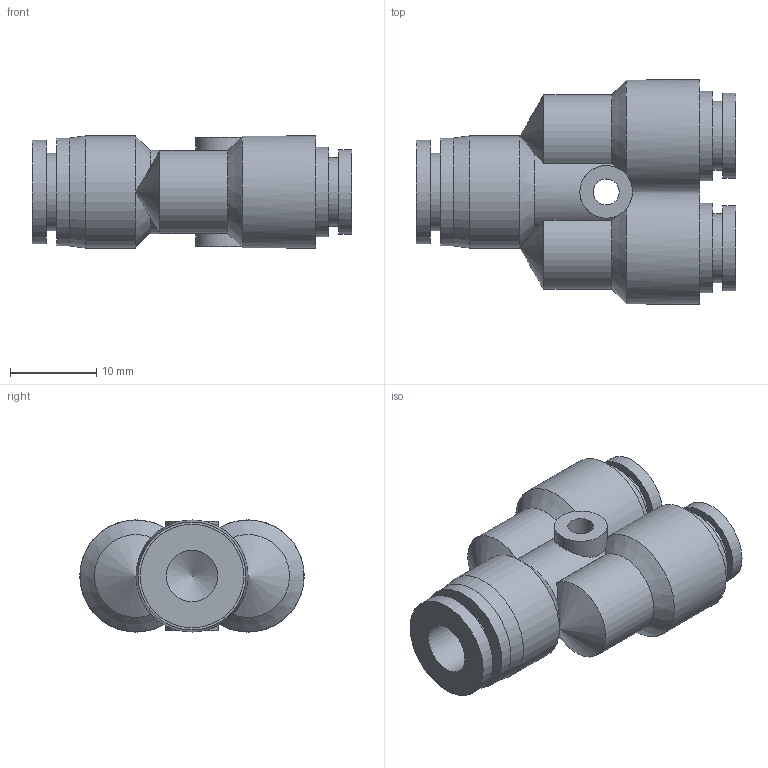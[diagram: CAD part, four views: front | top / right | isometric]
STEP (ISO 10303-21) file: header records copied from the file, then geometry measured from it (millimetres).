
FILE_DESCRIPTION((''),'2;1');
FILE_NAME('S:\UTecnico\ArchivioUT\Speciali Clienti\Speciali KONFIT\DISEGNI 3D\RP\RP 73\RP730604.stp','2012-06-29T11:25:27',('UT5'),(''),'Autodesk Inventor 2012','Autodesk Inventor 2012','');
FILE_SCHEMA(('AUTOMOTIVE_DESIGN { 1 0 10303 214 1 1 1 1 }'));
Length unit declared in the file: millimetre
Products named in the file (1): RP730604
Bounding box: 37 x 26 x 13 mm (x, y, z)
Volume: 5521.5 mm3; surface area: 3859.1 mm2
Topology: 1 solids, 1 shells, 45 faces, 97 edges, 59 vertices
Faces by surface type: cylinder 22, plane 13, cone 10
Full cylindrical faces by diameter (mm): 3 x1, 4 x2, 6 x1, 6.1 x2, 8 x2, 9 x1, 9.85 x2, 10.4 x2, 12 x1, 12.5 x1, 13 x3
Entity records: 1251 total; most frequent: CARTESIAN_POINT 331, DIRECTION 180, ORIENTED_EDGE 138, AXIS2_PLACEMENT_3D 87, EDGE_LOOP 75, EDGE_CURVE 69, VERTEX_POINT 53, FACE_OUTER_BOUND 45
